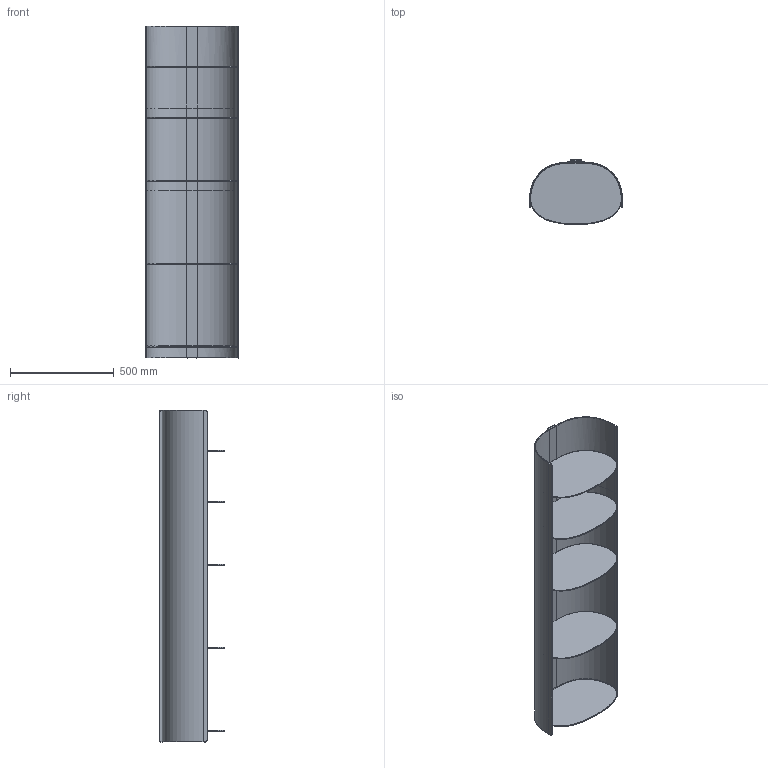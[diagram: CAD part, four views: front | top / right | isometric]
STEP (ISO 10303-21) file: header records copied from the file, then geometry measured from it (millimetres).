
FILE_DESCRIPTION(/* description */ (''),/* implementation_level */ '2;1');
FILE_NAME(/* name */ '202207_Pulpo_Comoshelf_big',/* time_stamp */ '2022-07-05T09:58:30+02:00',/* author */ (''),/* organization */ (''),/* preprocessor_version */ 'ST-DEVELOPER v16.5',/* originating_system */ 'Rhino 7.19',/* authorisation */ '');
FILE_SCHEMA (('CONFIG_CONTROL_DESIGN'));
Length unit declared in the file: millimetre
Products named in the file (1): Document
Bounding box: 450 x 311.95 x 1600 mm (x, y, z)
Volume: 7292345.2 mm3; surface area: 3655078.3 mm2
Topology: 8 solids, 8 shells, 179 faces, 387 edges, 224 vertices
Faces by surface type: bspline 66, plane 62, cylinder 51
Entity records: 15839 total; most frequent: CARTESIAN_POINT 13298, ORIENTED_EDGE 774, EDGE_CURVE 387, VERTEX_POINT 224, EDGE_LOOP 185, ADVANCED_FACE 179, FACE_OUTER_BOUND 179, B_SPLINE_CURVE_WITH_KNOTS 148
